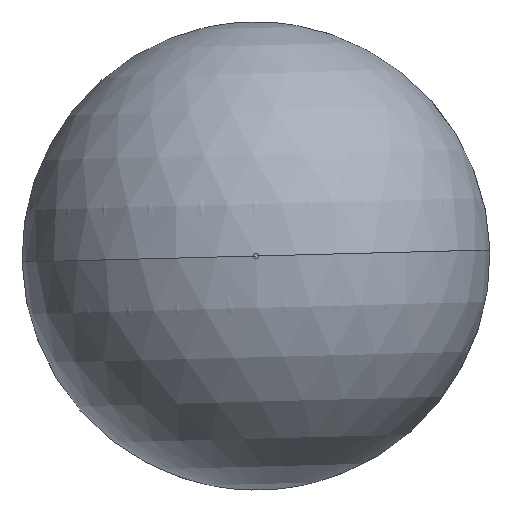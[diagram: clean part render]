
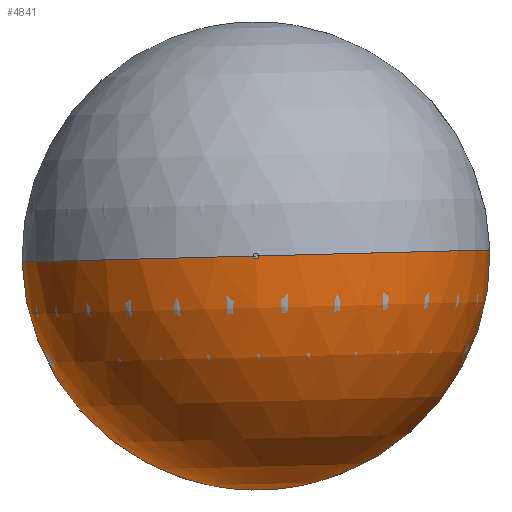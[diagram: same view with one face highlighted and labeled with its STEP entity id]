
A CAD part, front view. The second image highlights one B-rep face of the part: STEP entity #4841.
In plain terms, the highlighted spherical face has radius 201 mm.
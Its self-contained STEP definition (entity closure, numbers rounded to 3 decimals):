
#1127 = CARTESIAN_POINT ( 'NONE',  ( -200.998, 0., 0.891 ) ) ;
#1243 = CARTESIAN_POINT ( 'NONE',  ( 0., 0., 0. ) ) ;
#1283 = EDGE_CURVE ( 'NONE', #1933, #20350, #6399, .T. ) ;
#1933 = VERTEX_POINT ( 'NONE', #7302 ) ;
#2871 = EDGE_CURVE ( 'NONE', #10908, #20350, #7804, .T. ) ;
#2922 = DIRECTION ( 'NONE',  ( -1., 0., 0. ) ) ;
#3810 = FACE_OUTER_BOUND ( 'NONE', #11400, .T. ) ;
#4841 = ADVANCED_FACE ( 'NONE', ( #3810 ), #8121, .T. ) ;
#5958 = DIRECTION ( 'NONE',  ( -1., 0., 0. ) ) ;
#6295 = DIRECTION ( 'NONE',  ( 0., 1., 0. ) ) ;
#6323 = CARTESIAN_POINT ( 'NONE',  ( 0., 0., 0. ) ) ;
#6399 = CIRCLE ( 'NONE', #17240, 201. ) ;
#6760 = DIRECTION ( 'NONE',  ( 0., 0., -1. ) ) ;
#6785 = DIRECTION ( 'NONE',  ( 0., -1., 0. ) ) ;
#6815 = CARTESIAN_POINT ( 'NONE',  ( 0., 0., 0. ) ) ;
#7302 = CARTESIAN_POINT ( 'NONE',  ( 0., 0., 201. ) ) ;
#7804 = CIRCLE ( 'NONE', #20726, 200.998 ) ;
#8121 = SPHERICAL_SURFACE ( 'NONE', #17178, 201. ) ;
#9107 = ORIENTED_EDGE ( 'NONE', *, *, #12454, .F. ) ;
#9153 = AXIS2_PLACEMENT_3D ( 'NONE', #1243, #12598, #2922 ) ;
#10908 = VERTEX_POINT ( 'NONE', #11378 ) ;
#11378 = CARTESIAN_POINT ( 'NONE',  ( 200.998, 0., 0.891 ) ) ;
#11400 = EDGE_LOOP ( 'NONE', ( #9107, #13019, #13095 ) ) ;
#12030 = CARTESIAN_POINT ( 'NONE',  ( 0., 0., 0.891 ) ) ;
#12145 = DIRECTION ( 'NONE',  ( 1., 0., 0. ) ) ;
#12454 = EDGE_CURVE ( 'NONE', #1933, #10908, #15352, .T. ) ;
#12598 = DIRECTION ( 'NONE',  ( 0., 1., 0. ) ) ;
#13019 = ORIENTED_EDGE ( 'NONE', *, *, #1283, .T. ) ;
#13066 = DIRECTION ( 'NONE',  ( 0., 0., -1. ) ) ;
#13095 = ORIENTED_EDGE ( 'NONE', *, *, #2871, .F. ) ;
#15352 = CIRCLE ( 'NONE', #9153, 201. ) ;
#17178 = AXIS2_PLACEMENT_3D ( 'NONE', #6323, #6295, #5958 ) ;
#17240 = AXIS2_PLACEMENT_3D ( 'NONE', #6815, #6785, #6760 ) ;
#20350 = VERTEX_POINT ( 'NONE', #1127 ) ;
#20726 = AXIS2_PLACEMENT_3D ( 'NONE', #12030, #13066, #12145 ) ;
